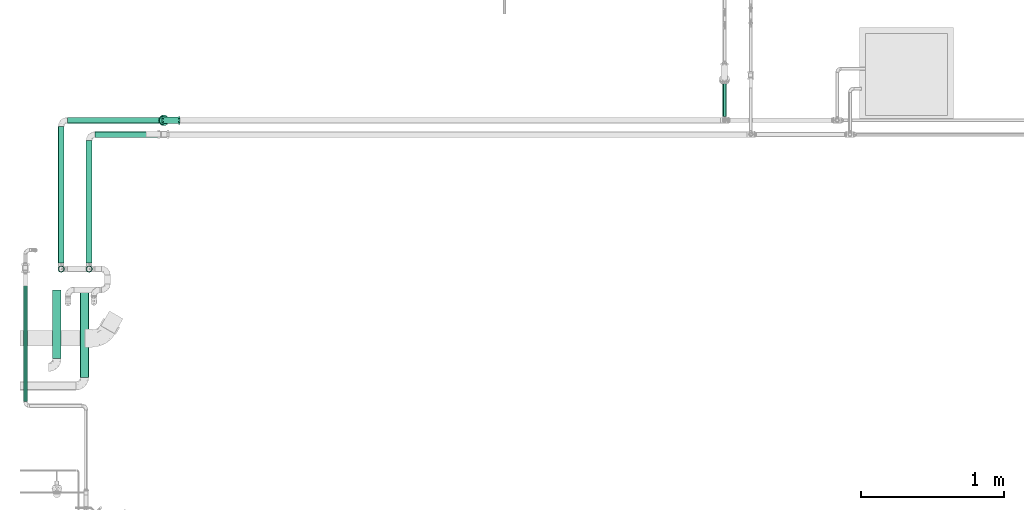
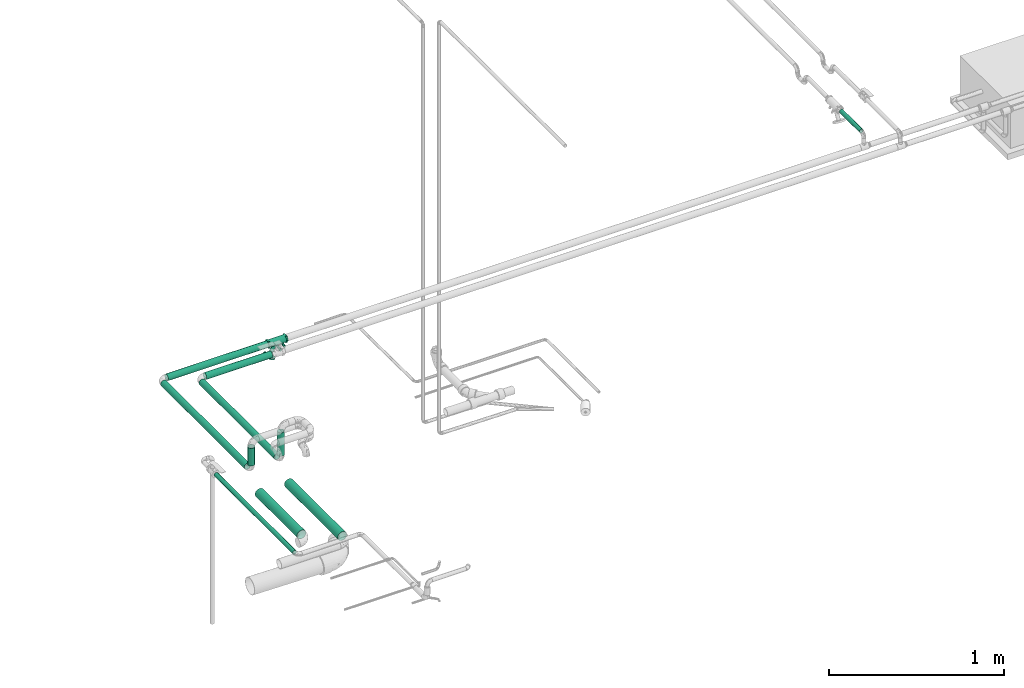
# One storey, part 8 of 35: 10 flow segments, 1 flow controller.
"""IFC2X3 building model written with IfcOpenShell, lengths in millimetres."""

from ifc_helpers import new_model, entity, si_unit, converted_unit, derived_unit, direction, frame, origin_with_axes, origin_2d_with_axis, place, context, subcontext, project, spatial, hollow_circle, extrude, open_shell, surface_model, source, transform, mapped, type_object, element, save


model = new_model("IFC2X3")

# Units and contexts
model_context = context("Model", 3, precision=0.01, world=frame((0.0, 4.29681676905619e-09, 0.0)), true_north=direction((4.01073788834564e-13, 1.0)))
plan_context = context("Plan", 3, precision=0.01, world=frame((0.0, 4.29681676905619e-09, 0.0)), true_north=direction((4.01073788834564e-13, 1.0)))
body_context = subcontext(model_context, "Body", "Model", "MODEL_VIEW")
ifc_project = project(units=[converted_unit("PLANEANGLEUNIT", "DEGREE", entity("IfcPositiveLengthMeasure", 0.0174532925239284), si_unit("PLANEANGLEUNIT", "RADIAN"), dimensions=[0, 0, 0, 0, 0, 0, 0]), si_unit("AREAUNIT", "SQUARE_METRE"), si_unit("LENGTHUNIT", "METRE", prefix="MILLI"), si_unit("MASSUNIT", "GRAM", prefix="KILO"), si_unit("POWERUNIT", "WATT"), si_unit("PRESSUREUNIT", "PASCAL"), si_unit("FORCEUNIT", "NEWTON", prefix="KILO"), si_unit("ELECTRICVOLTAGEUNIT", "VOLT"), si_unit("ELECTRICCURRENTUNIT", "AMPERE"), si_unit("THERMODYNAMICTEMPERATUREUNIT", "DEGREE_CELSIUS"), si_unit("TIMEUNIT", "SECOND"), si_unit("VOLUMEUNIT", "CUBIC_METRE"), derived_unit("LINEARVELOCITYUNIT", [(si_unit("LENGTHUNIT", "METRE"), 1), (si_unit("TIMEUNIT", "SECOND"), -1)]), derived_unit("VOLUMETRICFLOWRATEUNIT", [(si_unit("VOLUMEUNIT", "CUBIC_METRE"), 1), (si_unit("TIMEUNIT", "SECOND"), -1)]), derived_unit("THERMALTRANSMITTANCEUNIT", [(si_unit("POWERUNIT", "WATT"), 1), (si_unit("THERMODYNAMICTEMPERATUREUNIT", "KELVIN"), -1), (si_unit("AREAUNIT", "SQUARE_METRE"), -1)]), derived_unit("SOUNDPRESSUREUNIT", [(si_unit("PRESSUREUNIT", "PASCAL"), 1)])], contexts=[model_context, plan_context])

# Site, building, storey
site_placement = place(None, frame((0.0, -4.29681676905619e-09, 0.0), z_axis=(0.0, 0.0, 1.0), x_axis=(1.0, 0.0, 0.0)))
site = spatial("IfcSite", under=ifc_project, at=site_placement, Name="ENGM", CompositionType="ELEMENT")
building_placement = place(site_placement, frame((0.0, 4.29681676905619e-09, 0.0), z_axis=(0.0, 0.0, 1.0), x_axis=(1.0, 0.0, 0.0)))
building = spatial("IfcBuilding", under=site, at=building_placement, Name="TH", CompositionType="ELEMENT")
storey_placement = place(building_placement, frame((0.0, 0.0, 210200.0), z_axis=(0.0, 0.0, 1.0), x_axis=(1.0, 0.0, 0.0)))
storey = spatial("IfcBuildingStorey", under=building, at=storey_placement, Name="Nivå F - 0,7 m", CompositionType="ELEMENT", Elevation=210200.0)

# Flow controller
valve_type = type_object("IfcValveType", Name="STAD/F-32", PredefinedType="NOTDEFINED")
shared_shape_1 = source(origin_with_axes(), body_context, "Body", "SurfaceModel", [
    surface_model("IfcShellBasedSurfaceModel", [(62.0, 13.86, -24.00622), (62.0, 27.72, 0.0), (62.0, -13.86, -24.00622), (62.0, 13.86, 24.00622), (62.0, -13.86, 24.00622), (62.0, -27.72, 0.0), (52.0, -27.72, 0.0), (52.0, -13.86, 24.00622), (52.0, -13.86, -24.00622), (52.0, 27.72, 0.0), (52.0, 13.86, -24.00622), (52.0, 13.86, 24.00622), (-62.0, -13.86, -24.00622), (-62.0, -27.72, 0.0), (-62.0, 13.86, -24.00622), (-62.0, -13.86, 24.00622), (-62.0, 13.86, 24.00622), (-62.0, 27.72, 0.0), (-52.0, 27.72, 0.0), (-52.0, 13.86, 24.00622), (-52.0, 13.86, -24.00622), (-52.0, -27.72, 0.0), (-52.0, -13.86, -24.00622), (-52.0, -13.86, 24.00622), (61.40539, 36.22222, -86.94584), (69.23797, 32.47595, -82.42369), (75.96396, 26.5165, -78.54045), (36.76202, 32.47595, -101.17369), (84.36936, 9.70571, -73.68759), (81.125, 18.75, -75.56072), (21.63063, -9.70571, -109.90981), (21.63063, 9.70571, -109.90981), (44.5946, 36.22222, -96.65155), (52.99999, 37.5, -91.79869), (30.03603, 26.5165, -105.05695), (24.87499, 18.75, -108.03667), (85.47595, 0.0, -73.0487), (52.99999, -37.5, -91.79869), (84.36936, -9.70571, -73.68759), (81.125, -18.75, -75.56072), (69.23797, -32.47595, -82.42369), (75.96396, -26.5165, -78.54045), (61.40539, -36.22222, -86.94584), (24.87499, -18.75, -108.03667), (20.52404, 0.0, -110.54869), (36.76202, -32.47595, -101.17369), (30.03603, -26.5165, -105.05695), (44.5946, -36.22222, -96.65155), (78.36936, -9.70571, -63.29528), (47.0, -37.5, -81.40639), (55.40539, -36.22222, -76.55353), (63.23797, -32.47595, -72.03139), (75.125, -18.75, -65.16841), (69.96396, -26.5165, -68.14814), (15.63063, -9.70571, -99.5175), (38.5946, -36.22222, -86.25925), (24.03603, -26.5165, -94.66464), (30.76202, -32.47595, -90.78139), (18.87499, -18.75, -97.64437), (15.63063, 9.70571, -99.5175), (14.52404, 0.0, -100.15639), (69.96396, 26.5165, -68.14814), (78.36936, 9.70571, -63.29528), (75.125, 18.75, -65.16841), (63.23797, 32.47595, -72.03139), (55.40539, 36.22222, -76.55353), (30.76202, 32.47595, -90.78139), (18.87499, 18.75, -97.64437), (24.03603, 26.5165, -94.66464), (47.0, 37.5, -81.40639), (38.5946, 36.22222, -86.25925), (79.47595, 0.0, -62.65639), (52.0, 11.55, -20.00519), (52.0, -5.97872, -22.31289), (52.0, 5.97872, -22.31289), (52.0, 20.00519, -11.55), (52.0, 16.33417, -16.33417), (52.0, -22.31289, -5.97872), (52.0, 22.31289, -5.97872), (52.0, -16.33417, 16.33417), (52.0, -11.55, -20.00519), (52.0, 0.0, -23.1), (52.0, -16.33417, -16.33417), (52.0, -20.00519, -11.55), (52.0, 23.1, 0.0), (52.0, 22.31289, 5.97872), (52.0, 20.00519, 11.55), (52.0, 16.33417, 16.33417), (52.0, 11.55, 20.00519), (52.0, 5.97872, 22.31289), (52.0, 0.0, 23.1), (52.0, -22.31289, 5.97872), (52.0, -20.00519, 11.55), (52.0, -23.1, 0.0), (52.0, -5.97872, 22.31289), (52.0, -11.55, 20.00519), (-52.0, 0.0, 23.1), (-52.0, 5.97872, 22.31289), (-52.0, 11.55, 20.00519), (-52.0, -16.33417, 16.33417), (-52.0, 16.33417, 16.33417), (-52.0, 20.00519, 11.55), (-52.0, 22.31289, 5.97872), (-52.0, -5.97872, 22.31289), (-52.0, -11.55, 20.00519), (-52.0, -22.31289, 5.97872), (-52.0, -20.00519, 11.55), (-52.0, -23.1, 0.0), (-52.0, -22.31289, -5.97872), (-52.0, 22.31289, -5.97872), (-52.0, 16.33417, -16.33417), (-52.0, 20.00519, -11.55), (-52.0, -5.97872, -22.31289), (-52.0, 11.55, -20.00519), (-52.0, 0.0, -23.1), (-52.0, 5.97872, -22.31289), (-52.0, -16.33417, -16.33417), (-52.0, -20.00519, -11.55), (-52.0, -11.55, -20.00519), (-52.0, 23.1, 0.0), (-26.24732, 7.24444, -75.15582), (-24.68081, 6.49519, -76.06025), (-23.33561, 5.3033, -76.8369), (-31.176, 6.49519, -72.31025), (-22.3034, 3.75, -77.43284), (-21.65453, 1.94114, -77.80747), (-21.43321, 0.0, -77.93525), (-21.65453, -1.94114, -77.80747), (-33.5534, 3.75, -70.93765), (-27.9284, 7.5, -74.18525), (-29.60948, 7.24444, -73.21468), (-32.5212, 5.3033, -71.5336), (-34.42359, 0.0, -70.43524), (-34.20228, 1.94114, -70.56303), (-22.3034, -3.75, -77.43284), (-23.33561, -5.3033, -76.8369), (-24.68081, -6.49519, -76.06025), (-26.24732, -7.24444, -75.15582), (-27.9284, -7.5, -74.18525), (-29.60948, -7.24444, -73.21468), (-34.20228, -1.94114, -70.56303), (-31.176, -6.49519, -72.31025), (-33.5534, -3.75, -70.93765), (-32.5212, -5.3033, -71.5336), (19.69659, -3.75, -4.68671), (14.07159, -7.5, -1.43911), (15.75267, -7.24444, -2.40968), (18.66439, -5.3033, -4.09076), (17.31919, -6.49519, -3.31411), (9.4788, -5.3033, 1.21254), (8.44659, -3.75, 1.80848), (20.34547, -1.94114, -5.06133), (12.39051, -7.24444, -0.46854), (10.824, -6.49519, 0.43589), (7.79772, -1.94114, 2.18311), (7.79772, 1.94114, 2.18311), (7.5764, 0.0, 2.31089), (10.824, 6.49519, 0.43589), (18.66439, 5.3033, -4.09076), (20.56678, 0.0, -5.18911), (20.34547, 1.94114, -5.06133), (19.69659, 3.75, -4.68671), (17.31919, 6.49519, -3.31411), (15.75267, 7.24444, -2.40968), (9.4788, 5.3033, 1.21254), (8.44659, 3.75, 1.80848), (14.07159, 7.5, -1.43911), (12.39051, 7.24444, -0.46854), (-48.50132, 1.94114, -62.30747), (-53.09411, 7.24444, -59.65582), (-51.5276, 6.49519, -60.56025), (-50.1824, 5.3033, -61.33689), (-61.04906, 1.94114, -55.06303), (-49.15019, 3.75, -61.93284), (-59.36798, -5.3033, -56.0336), (-56.45627, 7.24444, -57.71467), (-54.77519, 7.5, -58.68524), (-58.02278, 6.49519, -56.81025), (-59.36798, 5.3033, -56.0336), (-60.40019, 3.75, -55.43765), (-48.28, 0.0, -62.43525), (-48.50132, -1.94114, -62.30747), (-49.15019, -3.75, -61.93284), (-50.1824, -5.3033, -61.33689), (-53.09411, -7.24444, -59.65582), (-51.5276, -6.49519, -60.56025), (-54.77519, -7.5, -58.68524), (-61.04906, -1.94114, -55.06303), (-60.40019, -3.75, -55.43765), (-61.27038, 0.0, -54.93525), (-56.45627, -7.24444, -57.71467), (-58.02278, -6.49519, -56.81025), (-28.59411, -7.24444, -17.22057), (-34.86799, -5.3033, -13.59835), (-30.27519, -7.5, -16.25), (-25.6824, -5.3033, -18.90165), (-27.0276, -6.49519, -18.125), (-24.65019, -3.75, -19.49759), (-24.00132, -1.94114, -19.87222), (-36.54907, 1.94114, -12.62778), (-31.95627, -7.24444, -15.27943), (-33.52279, -6.49519, -14.375), (-35.90019, -3.75, -13.00241), (-36.54907, -1.94114, -12.62778), (-36.77038, 0.0, -12.5), (-24.00132, 1.94114, -19.87222), (-25.6824, 5.3033, -18.90165), (-24.65019, 3.75, -19.49759), (-27.0276, 6.49519, -18.125), (-28.59411, 7.24444, -17.22057), (-34.86799, 5.3033, -13.59835), (-35.90019, 3.75, -13.00241), (-33.52279, 6.49519, -14.375), (-30.27519, 7.5, -16.25), (-31.95627, 7.24444, -15.27943), (-23.78, 0.0, -20.0), (52.41265, 10.82532, -78.28139), (54.65465, 8.83883, -76.98697), (52.32605, 10.65211, -78.33139), (49.75696, 11.88089, -79.81465), (47.0, 12.3, -81.40639), (49.80179, 12.07407, -79.78877), (47.0, 12.5, -81.40639), (54.53218, 8.69741, -77.05769), (57.45645, 3.23524, -75.36935), (57.65211, 0.0, -75.25639), (57.28914, 3.18347, -75.46595), (57.82531, 0.0, -75.15639), (56.375, 6.25, -75.99373), (56.225, 6.15, -76.08034), (44.24303, 11.88089, -82.99813), (44.1982, 12.07407, -83.02401), (41.67394, 10.65211, -84.48139), (39.34534, 8.83883, -85.82581), (41.58734, 10.82532, -84.53139), (39.46781, 8.69741, -85.75509), (37.77499, 6.15, -86.73244), (37.62499, 6.25, -86.81905), (36.71085, 3.18347, -87.34683), (36.54354, 3.23524, -87.44343), (36.34788, 0.0, -87.55639), (36.17468, 0.0, -87.65639), (57.45645, -3.23524, -75.36935), (57.28914, -3.18347, -75.46595), (56.225, -6.15, -76.08034), (56.375, -6.25, -75.99373), (54.53218, -8.69741, -77.05769), (54.65465, -8.83883, -76.98697), (52.41265, -10.82532, -78.28139), (52.32605, -10.65211, -78.33139), (49.75696, -11.88089, -79.81465), (49.80179, -12.07407, -79.78877), (47.0, -12.3, -81.40639), (47.0, -12.5, -81.40639), (37.62499, -6.25, -86.81905), (37.77499, -6.15, -86.73244), (39.34534, -8.83883, -85.82581), (39.46781, -8.69741, -85.75509), (36.54354, -3.23524, -87.44343), (36.71085, -3.18347, -87.34683), (44.24303, -11.88089, -82.99813), (44.1982, -12.07407, -83.02401), (41.67394, -10.65211, -84.48139), (41.58734, -10.82532, -84.53139), (5.41266, -10.82532, 3.125), (7.65466, -8.83883, 4.41942), (5.32606, -10.65211, 3.075), (2.75697, -11.88089, 1.59174), (0.0, -12.3, 0.0), (2.8018, -12.07407, 1.61762), (0.0, -12.5, 0.0), (7.53218, -8.69741, 4.34871), (10.45645, -3.23524, 6.03704), (10.65211, 0.0, 6.15), (10.28915, -3.18347, 5.94044), (10.82532, 0.0, 6.25), (9.375, -6.25, 5.41266), (9.225, -6.15, 5.32606), (-2.75697, -11.88089, -1.59174), (-2.8018, -12.07407, -1.61762), (-5.32606, -10.65211, -3.075), (-7.65466, -8.83883, -4.41942), (-5.41266, -10.82532, -3.125), (-7.53218, -8.69741, -4.34871), (-9.225, -6.15, -5.32606), (-9.375, -6.25, -5.41266), (-10.28915, -3.18347, -5.94044), (-10.45645, -3.23524, -6.03704), (-10.65211, 0.0, -6.15), (-10.82532, 0.0, -6.25), (10.45645, 3.23524, 6.03704), (10.28915, 3.18347, 5.94044), (9.225, 6.15, 5.32606), (9.375, 6.25, 5.41266), (7.53218, 8.69741, 4.34871), (7.65466, 8.83883, 4.41942), (5.41266, 10.82532, 3.125), (5.32606, 10.65211, 3.075), (2.75697, 11.88089, 1.59174), (2.8018, 12.07407, 1.61762), (0.0, 12.3, 0.0), (0.0, 12.5, 0.0), (-9.375, 6.25, -5.41266), (-9.225, 6.15, -5.32606), (-7.65466, 8.83883, -4.41942), (-7.53218, 8.69741, -4.34871), (-10.45645, 3.23524, -6.03704), (-10.28915, 3.18347, -5.94044), (-2.75697, 11.88089, -1.59174), (-2.8018, 12.07407, -1.61762), (-5.32606, 10.65211, -3.075), (-5.41266, 10.82532, -3.125)], [open_shell([[[0, 1, 2]], [[2, 1, 3]], [[2, 4, 5]], [[4, 2, 3]], [[6, 7, 8]], [[8, 7, 9]], [[9, 10, 8]], [[9, 7, 11]], [[4, 3, 7]], [[11, 7, 3]], [[5, 4, 7]], [[7, 6, 5]], [[2, 5, 6]], [[6, 8, 2]], [[0, 2, 10]], [[8, 10, 2]], [[1, 0, 9]], [[10, 9, 0]], [[3, 1, 11]], [[9, 11, 1]], [[12, 13, 14]], [[14, 13, 15]], [[14, 16, 17]], [[16, 14, 15]], [[18, 19, 20]], [[20, 19, 21]], [[21, 22, 20]], [[21, 19, 23]], [[16, 15, 19]], [[23, 19, 15]], [[17, 16, 19]], [[19, 18, 17]], [[14, 17, 18]], [[18, 20, 14]], [[12, 14, 22]], [[20, 22, 14]], [[13, 12, 21]], [[22, 21, 12]], [[15, 13, 23]], [[21, 23, 13]], [[24, 25, 26]], [[27, 24, 26]], [[27, 26, 28]], [[28, 26, 29]], [[30, 31, 28]], [[24, 32, 33]], [[24, 27, 32]], [[34, 31, 35]], [[31, 34, 27]], [[28, 31, 27]], [[28, 36, 30]], [[37, 38, 39]], [[40, 39, 41]], [[40, 42, 37]], [[40, 37, 39]], [[38, 37, 43]], [[38, 43, 30]], [[44, 31, 30]], [[43, 45, 46]], [[43, 37, 45]], [[45, 37, 47]], [[30, 36, 38]], [[48, 49, 50]], [[48, 50, 51]], [[52, 48, 51]], [[52, 51, 53]], [[49, 48, 54]], [[55, 56, 57]], [[56, 55, 54]], [[56, 54, 58]], [[55, 49, 54]], [[54, 59, 60]], [[54, 48, 61]], [[48, 62, 61]], [[61, 62, 63]], [[61, 64, 65]], [[61, 66, 54]], [[65, 66, 61]], [[67, 66, 68]], [[59, 54, 67]], [[66, 69, 70]], [[67, 54, 66]], [[69, 66, 65]], [[71, 62, 48]], [[59, 31, 60]], [[67, 35, 59]], [[27, 68, 66]], [[67, 68, 34]], [[32, 66, 70]], [[59, 35, 31]], [[31, 44, 60]], [[32, 27, 66]], [[34, 68, 27]], [[34, 35, 67]], [[33, 32, 70]], [[70, 69, 33]], [[65, 24, 69]], [[64, 25, 65]], [[29, 61, 63]], [[64, 61, 26]], [[28, 63, 62]], [[64, 26, 25]], [[25, 24, 65]], [[36, 28, 62]], [[29, 63, 28]], [[29, 26, 61]], [[71, 36, 62]], [[69, 24, 33]], [[48, 38, 71]], [[52, 39, 48]], [[40, 53, 51]], [[52, 53, 41]], [[42, 51, 50]], [[48, 39, 38]], [[38, 36, 71]], [[42, 40, 51]], [[41, 53, 40]], [[41, 39, 52]], [[37, 42, 50]], [[50, 49, 37]], [[55, 47, 49]], [[57, 45, 55]], [[43, 56, 58]], [[57, 56, 46]], [[30, 58, 54]], [[57, 46, 45]], [[45, 47, 55]], [[44, 30, 54]], [[43, 58, 30]], [[43, 46, 56]], [[60, 44, 54]], [[49, 47, 37]], [[72, 73, 74]], [[75, 72, 76]], [[77, 72, 78]], [[78, 72, 75]], [[79, 77, 78]], [[73, 77, 80]], [[73, 81, 74]], [[82, 77, 83]], [[77, 82, 80]], [[72, 77, 73]], [[78, 84, 79]], [[85, 86, 87]], [[85, 87, 88]], [[88, 89, 90]], [[85, 88, 79]], [[79, 88, 90]], [[91, 79, 92]], [[91, 93, 77]], [[79, 94, 95]], [[77, 79, 91]], [[90, 94, 79]], [[79, 84, 85]], [[96, 97, 98]], [[99, 96, 98]], [[100, 101, 102]], [[100, 102, 98]], [[99, 98, 102]], [[103, 99, 104]], [[103, 96, 99]], [[99, 105, 106]], [[107, 105, 108]], [[105, 99, 108]], [[99, 102, 108]], [[108, 102, 109]], [[110, 109, 111]], [[112, 109, 113]], [[113, 109, 110]], [[114, 113, 115]], [[108, 116, 117]], [[116, 108, 118]], [[108, 112, 118]], [[108, 109, 112]], [[113, 114, 112]], [[109, 102, 119]], [[77, 108, 117]], [[116, 83, 117]], [[80, 118, 112]], [[116, 118, 82]], [[73, 112, 114]], [[108, 93, 107]], [[108, 77, 93]], [[117, 83, 77]], [[116, 82, 83]], [[80, 82, 118]], [[112, 73, 80]], [[114, 81, 73]], [[74, 115, 113]], [[110, 72, 113]], [[75, 111, 109]], [[110, 111, 76]], [[78, 109, 119]], [[115, 74, 81]], [[113, 72, 74]], [[110, 76, 72]], [[111, 75, 76]], [[78, 75, 109]], [[119, 84, 78]], [[115, 81, 114]], [[119, 102, 85]], [[88, 98, 97]], [[98, 87, 100]], [[96, 89, 97]], [[119, 85, 84]], [[85, 102, 101]], [[85, 101, 86]], [[101, 100, 86]], [[86, 100, 87]], [[87, 98, 88]], [[97, 89, 88]], [[96, 90, 89]], [[94, 103, 104]], [[99, 95, 104]], [[92, 106, 105]], [[99, 106, 79]], [[91, 105, 107]], [[103, 94, 90]], [[104, 95, 94]], [[99, 79, 95]], [[106, 92, 79]], [[91, 92, 105]], [[107, 93, 91]], [[103, 90, 96]], [[120, 121, 122]], [[123, 120, 122]], [[124, 125, 126]], [[124, 126, 122]], [[127, 128, 122]], [[129, 123, 130]], [[129, 120, 123]], [[123, 128, 131]], [[122, 128, 123]], [[128, 132, 133]], [[127, 122, 126]], [[127, 134, 135]], [[127, 135, 136]], [[136, 137, 138]], [[136, 138, 127]], [[127, 138, 139]], [[140, 141, 142]], [[132, 128, 140]], [[142, 141, 143]], [[141, 140, 139]], [[127, 139, 140]], [[140, 128, 127]], [[144, 145, 146]], [[147, 146, 148]], [[145, 144, 149]], [[144, 146, 147]], [[150, 144, 151]], [[152, 149, 153]], [[152, 145, 149]], [[144, 150, 149]], [[154, 150, 151]], [[154, 155, 156]], [[154, 151, 157]], [[158, 159, 160]], [[158, 160, 161]], [[158, 162, 163]], [[163, 151, 158]], [[163, 157, 151]], [[155, 164, 165]], [[164, 155, 157]], [[157, 166, 167]], [[155, 154, 157]], [[163, 166, 157]], [[158, 151, 159]], [[155, 133, 156]], [[165, 128, 155]], [[123, 164, 157]], [[165, 164, 131]], [[130, 157, 167]], [[155, 128, 133]], [[133, 132, 156]], [[130, 123, 157]], [[131, 164, 123]], [[131, 128, 165]], [[129, 130, 167]], [[167, 166, 129]], [[163, 120, 166]], [[162, 121, 163]], [[124, 158, 161]], [[162, 158, 122]], [[125, 161, 160]], [[162, 122, 121]], [[121, 120, 163]], [[126, 125, 160]], [[124, 161, 125]], [[124, 122, 158]], [[159, 126, 160]], [[166, 120, 129]], [[151, 127, 159]], [[144, 134, 151]], [[136, 147, 148]], [[144, 147, 135]], [[137, 148, 146]], [[159, 127, 126]], [[151, 134, 127]], [[138, 137, 146]], [[134, 144, 135]], [[137, 136, 148]], [[147, 136, 135]], [[146, 145, 138]], [[152, 139, 145]], [[153, 141, 152]], [[153, 149, 141]], [[149, 150, 143]], [[139, 152, 141]], [[141, 149, 143]], [[154, 140, 142]], [[140, 154, 132]], [[154, 156, 132]], [[142, 143, 150]], [[142, 150, 154]], [[145, 139, 138]], [[168, 169, 170]], [[168, 170, 171]], [[169, 168, 172]], [[168, 171, 173]], [[174, 172, 168]], [[169, 175, 176]], [[169, 177, 175]], [[178, 172, 179]], [[172, 178, 177]], [[169, 172, 177]], [[168, 180, 181]], [[181, 182, 183]], [[168, 183, 174]], [[183, 184, 174]], [[184, 183, 185]], [[186, 174, 184]], [[187, 174, 188]], [[189, 172, 187]], [[174, 190, 191]], [[172, 174, 187]], [[186, 190, 174]], [[181, 183, 168]], [[192, 193, 194]], [[195, 192, 196]], [[195, 197, 198]], [[193, 192, 199]], [[199, 192, 195]], [[200, 193, 201]], [[200, 194, 193]], [[193, 199, 202]], [[199, 203, 202]], [[203, 199, 204]], [[198, 205, 195]], [[199, 195, 205]], [[206, 205, 207]], [[208, 209, 205]], [[208, 205, 206]], [[199, 205, 209]], [[199, 210, 211]], [[210, 199, 212]], [[212, 213, 214]], [[212, 199, 209]], [[209, 213, 212]], [[205, 198, 215]], [[199, 172, 204]], [[211, 179, 199]], [[177, 210, 212]], [[211, 210, 178]], [[175, 212, 214]], [[199, 179, 172]], [[172, 189, 204]], [[175, 177, 212]], [[178, 210, 177]], [[178, 179, 211]], [[176, 175, 214]], [[214, 213, 176]], [[209, 169, 213]], [[208, 170, 209]], [[173, 206, 207]], [[208, 206, 171]], [[168, 207, 205]], [[208, 171, 170]], [[170, 169, 209]], [[180, 168, 205]], [[173, 207, 168]], [[173, 171, 206]], [[215, 180, 205]], [[213, 169, 176]], [[198, 181, 215]], [[197, 182, 198]], [[185, 195, 196]], [[197, 195, 183]], [[184, 196, 192]], [[198, 182, 181]], [[181, 180, 215]], [[184, 185, 196]], [[183, 195, 185]], [[183, 182, 197]], [[186, 184, 192]], [[192, 194, 186]], [[200, 190, 194]], [[201, 191, 200]], [[188, 193, 202]], [[201, 193, 174]], [[187, 202, 203]], [[201, 174, 191]], [[191, 190, 200]], [[189, 187, 203]], [[188, 202, 187]], [[188, 174, 193]], [[204, 189, 203]], [[194, 190, 186]], [[216, 217, 218]], [[216, 218, 219]], [[220, 221, 219]], [[221, 220, 222]], [[219, 221, 216]], [[218, 217, 223]], [[224, 225, 226]], [[225, 224, 227]], [[224, 226, 228]], [[223, 228, 229]], [[228, 223, 217]], [[229, 228, 226]], [[222, 230, 231]], [[231, 230, 232]], [[233, 234, 235]], [[232, 234, 231]], [[232, 235, 234]], [[222, 220, 230]], [[236, 237, 233]], [[237, 236, 238]], [[236, 233, 235]], [[239, 238, 240]], [[238, 239, 237]], [[239, 240, 241]], [[227, 242, 243]], [[243, 242, 244]], [[244, 245, 246]], [[245, 244, 242]], [[246, 245, 247]], [[247, 248, 249]], [[249, 248, 250]], [[250, 251, 252]], [[251, 250, 248]], [[252, 251, 253]], [[249, 246, 247]], [[254, 255, 256]], [[256, 255, 257]], [[255, 254, 258]], [[241, 259, 258]], [[258, 259, 255]], [[241, 240, 259]], [[260, 253, 261]], [[260, 261, 262]], [[257, 263, 256]], [[257, 262, 263]], [[263, 262, 261]], [[252, 253, 260]], [[243, 225, 227]], [[264, 265, 266]], [[264, 266, 267]], [[268, 269, 267]], [[269, 268, 270]], [[267, 269, 264]], [[266, 265, 271]], [[272, 273, 274]], [[273, 272, 275]], [[272, 274, 276]], [[271, 276, 277]], [[276, 271, 265]], [[277, 276, 274]], [[270, 278, 279]], [[279, 278, 280]], [[281, 282, 283]], [[280, 282, 279]], [[280, 283, 282]], [[270, 268, 278]], [[284, 285, 281]], [[285, 284, 286]], [[284, 281, 283]], [[287, 286, 288]], [[286, 287, 285]], [[287, 288, 289]], [[275, 290, 291]], [[291, 290, 292]], [[292, 293, 294]], [[293, 292, 290]], [[294, 293, 295]], [[295, 296, 297]], [[297, 296, 298]], [[298, 299, 300]], [[299, 298, 296]], [[300, 299, 301]], [[297, 294, 295]], [[302, 303, 304]], [[304, 303, 305]], [[303, 302, 306]], [[289, 307, 306]], [[306, 307, 303]], [[289, 288, 307]], [[308, 301, 309]], [[308, 309, 310]], [[305, 311, 304]], [[305, 310, 311]], [[311, 310, 309]], [[300, 301, 308]], [[291, 273, 275]], [[306, 239, 289]], [[302, 237, 306]], [[234, 304, 311]], [[302, 304, 233]], [[231, 311, 309]], [[306, 237, 239]], [[239, 241, 289]], [[231, 234, 311]], [[233, 304, 234]], [[233, 237, 302]], [[222, 231, 309]], [[309, 301, 222]], [[299, 221, 301]], [[296, 216, 299]], [[228, 295, 293]], [[296, 295, 217]], [[224, 293, 290]], [[296, 217, 216]], [[216, 221, 299]], [[227, 224, 290]], [[228, 293, 224]], [[228, 217, 295]], [[275, 227, 290]], [[301, 221, 222]], [[272, 242, 275]], [[276, 245, 272]], [[248, 265, 264]], [[276, 265, 247]], [[251, 264, 269]], [[275, 242, 227]], [[272, 245, 242]], [[248, 264, 251]], [[276, 247, 245]], [[265, 248, 247]], [[269, 253, 251]], [[269, 270, 253]], [[279, 261, 270]], [[282, 263, 279]], [[282, 281, 256]], [[281, 285, 256]], [[261, 279, 263]], [[263, 282, 256]], [[258, 287, 241]], [[287, 258, 254]], [[287, 289, 241]], [[254, 256, 285]], [[254, 285, 287]], [[270, 261, 253]], [[288, 238, 307]], [[307, 236, 303]], [[235, 305, 303]], [[232, 310, 305]], [[238, 236, 307]], [[288, 240, 238]], [[232, 230, 308]], [[308, 230, 220]], [[232, 305, 235]], [[303, 236, 235]], [[232, 308, 310]], [[220, 300, 308]], [[297, 298, 219]], [[297, 218, 294]], [[291, 292, 229]], [[223, 292, 294]], [[273, 291, 226]], [[298, 220, 219]], [[218, 297, 219]], [[229, 292, 223]], [[291, 229, 226]], [[223, 294, 218]], [[226, 225, 273]], [[300, 220, 298]], [[273, 243, 274]], [[274, 244, 277]], [[266, 271, 249]], [[246, 271, 277]], [[267, 266, 249]], [[243, 244, 274]], [[273, 225, 243]], [[252, 268, 250]], [[267, 249, 250]], [[249, 271, 246]], [[277, 244, 246]], [[267, 250, 268]], [[280, 278, 260]], [[280, 262, 283]], [[286, 284, 255]], [[257, 284, 283]], [[288, 286, 259]], [[260, 268, 252]], [[280, 260, 262]], [[255, 284, 257]], [[286, 255, 259]], [[257, 283, 262]], [[240, 288, 259]], [[278, 268, 260]]])]),
])
flow_controller_placement = place(storey_placement, frame((896167.1772, 481295.36097, 2978.79999999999), z_axis=(0.0, 0.0, 1.0), x_axis=(-1.0, 0.0, 0.0)))
element("IfcFlowController", 1, at=flow_controller_placement, inside=storey, type_object=valve_type, Name="STAD/F-32", context=body_context, shape_type="MappedRepresentation", body=[
    mapped(shared_shape_1, transform((0.0, 0.0, 0.0), scale=1.0)),
])

# Flow segments
pipe_segment_type_1 = type_object("IfcPipeSegmentType", Name="Stålrør normaltykke", PredefinedType="RIGIDSEGMENT")
shared_shape_2 = source(origin_with_axes(), body_context, "Body", "SweptSolid", [
    extrude(hollow_circle(Radius=21.2, WallThickness=2.0, at=origin_2d_with_axis()), frame((0.0, 0.0, 0.0), z_axis=(1.0, 0.0, 0.0), x_axis=(0.0, 1.0, 0.0)), (0.0, 0.0, 1.0), 856.2),
])
flow_segment_1_placement = place(storey_placement, frame((895595.39181, 481153.97011, 2978.79999999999), z_axis=(0.0, 0.0, 1.0), x_axis=(0.0, -1.0, 0.0)))
element("IfcFlowSegment", 2, at=flow_segment_1_placement, inside=storey, type_object=pipe_segment_type_1, Name="Stålrør normaltykke", context=body_context, shape_type="MappedRepresentation", body=[
    mapped(shared_shape_2, transform((0.0, 0.0, 0.0), scale=1.0)),
])
shared_shape_3 = source(origin_with_axes(), body_context, "Body", "SweptSolid", [
    extrude(hollow_circle(Radius=21.2, WallThickness=2.0, at=origin_2d_with_axis()), frame((0.0, 0.0, 0.0), z_axis=(1.0, 0.0, 0.0), x_axis=(0.0, 1.0, 0.0)), (0.0, 0.0, 1.0), 955.2),
])
flow_segment_2_placement = place(storey_placement, frame((895399.93442, 481252.96097, 2978.79999999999), z_axis=(0.0, 0.0, 1.0), x_axis=(0.0, -1.0, 0.0)))
element("IfcFlowSegment", 3, at=flow_segment_2_placement, inside=storey, type_object=pipe_segment_type_1, Name="Stålrør normaltykke", context=body_context, shape_type="MappedRepresentation", body=[
    mapped(shared_shape_3, transform((0.0, 0.0, 0.0), scale=1.0)),
])
shared_shape_4 = source(origin_with_axes(), body_context, "Body", "SweptSolid", [
    extrude(hollow_circle(Radius=21.2, WallThickness=2.0, at=origin_2d_with_axis()), frame((0.0, 0.0, 0.0), z_axis=(1.0, 0.0, 0.0), x_axis=(0.0, 1.0, 0.0)), (0.0, 0.0, 1.0), 123.4),
])
flow_segment_3_placement = place(storey_placement, frame((895399.93442, 480255.36097, 3021.20000000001), z_axis=(-1.0, 0.0, 0.0), x_axis=(0.0, 0.0, 1.0)))
element("IfcFlowSegment", 4, at=flow_segment_3_placement, inside=storey, type_object=pipe_segment_type_1, Name="Stålrør normaltykke", context=body_context, shape_type="MappedRepresentation", body=[
    mapped(shared_shape_4, transform((0.0, 0.0, 0.0), scale=1.0)),
])
shared_shape_5 = source(origin_with_axes(), body_context, "Body", "SweptSolid", [
    extrude(hollow_circle(Radius=21.2, WallThickness=2.0, at=origin_2d_with_axis()), frame((0.0, 0.0, 0.0), z_axis=(1.0, 0.0, 0.0), x_axis=(0.0, 1.0, 0.0)), (0.0, 0.0, 1.0), 162.2),
])
flow_segment_4_placement = place(storey_placement, frame((895595.39181, 480255.36097, 3021.20000000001), z_axis=(-1.0, 0.0, 0.0), x_axis=(0.0, 0.0, 1.0)))
element("IfcFlowSegment", 5, at=flow_segment_4_placement, inside=storey, type_object=pipe_segment_type_1, Name="Stålrør normaltykke", context=body_context, shape_type="MappedRepresentation", body=[
    mapped(shared_shape_5, transform((0.0, 0.0, 0.0), scale=1.0)),
])
shared_shape_6 = source(origin_with_axes(), body_context, "Body", "SweptSolid", [
    extrude(hollow_circle(Radius=30.1, WallThickness=2.0, at=origin_2d_with_axis()), frame((0.0, 0.0, 0.0), z_axis=(1.0, 0.0, 0.0), x_axis=(0.0, 1.0, 0.0)), (0.0, 0.0, 1.0), 479.2),
])
flow_segment_5_placement = place(storey_placement, frame((895369.84063, 480107.50014, 2921.0), z_axis=(0.0, 0.0, 1.0), x_axis=(0.0, -1.0, 0.0)))
element("IfcFlowSegment", 6, at=flow_segment_5_placement, inside=storey, type_object=pipe_segment_type_1, Name="Stålrør normaltykke", context=body_context, shape_type="MappedRepresentation", body=[
    mapped(shared_shape_6, transform((0.0, 0.0, 0.0), scale=1.0)),
])
shared_shape_7 = source(origin_with_axes(), body_context, "Body", "SweptSolid", [
    extrude(hollow_circle(Radius=30.1, WallThickness=2.0, at=origin_2d_with_axis()), frame((0.0, 0.0, 0.0), z_axis=(1.0, 0.0, 0.0), x_axis=(0.0, 1.0, 0.0)), (0.0, 0.0, 1.0), 609.2),
])
flow_segment_6_placement = place(storey_placement, frame((895562.81931, 480107.50014, 2921.0), z_axis=(0.0, 0.0, 1.0), x_axis=(0.0, -1.0, 0.0)))
element("IfcFlowSegment", 7, at=flow_segment_6_placement, inside=storey, type_object=pipe_segment_type_1, Name="Stålrør normaltykke", context=body_context, shape_type="MappedRepresentation", body=[
    mapped(shared_shape_7, transform((0.0, 0.0, 0.0), scale=1.0)),
])
pipe_segment_type_2 = type_object("IfcPipeSegmentType", Name="Kobberrør", PredefinedType="RIGIDSEGMENT")
shared_shape_8 = source(origin_with_axes(), body_context, "Body", "SweptSolid", [
    extrude(hollow_circle(Radius=14.0, WallThickness=2.0, at=origin_2d_with_axis()), frame((0.0, 0.0, 0.0), z_axis=(1.0, 0.0, 0.0), x_axis=(0.0, 1.0, 0.0)), (0.0, 0.0, 1.0), 895.8),
])
flow_segment_7_placement = place(storey_placement, frame((895150.16007, 479327.55605, 3055.47382000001), z_axis=(0.0, 0.0, 1.0), x_axis=(0.0, 1.0, 0.0)))
element("IfcFlowSegment", 8, at=flow_segment_7_placement, inside=storey, type_object=pipe_segment_type_2, Name="Kobberrør", context=body_context, shape_type="MappedRepresentation", body=[
    mapped(shared_shape_8, transform((0.0, 0.0, 0.0), scale=1.0)),
])
shared_shape_9 = source(origin_with_axes(), body_context, "Body", "SweptSolid", [
    extrude(hollow_circle(Radius=21.2, WallThickness=2.0, at=origin_2d_with_axis()), frame((0.0, 0.0, 0.0), z_axis=(1.0, 0.0, 0.0), x_axis=(0.0, 1.0, 0.0)), (0.0, 0.0, 1.0), 662.8),
])
flow_segment_8_placement = place(storey_placement, frame((895442.33442, 481295.36097, 2978.79999999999), z_axis=(0.0, 0.0, 1.0), x_axis=(1.0, 0.0, 0.0)))
element("IfcFlowSegment", 9, at=flow_segment_8_placement, inside=storey, type_object=pipe_segment_type_1, Name="Stålrør normaltykke", context=body_context, shape_type="MappedRepresentation", body=[
    mapped(shared_shape_9, transform((0.0, 0.0, 0.0), scale=1.0)),
])
shared_shape_10 = source(origin_with_axes(), body_context, "Body", "SweptSolid", [
    extrude(hollow_circle(Radius=21.2, WallThickness=2.0, at=origin_2d_with_axis()), frame((0.0, 0.0, 0.0), z_axis=(1.0, 0.0, 0.0), x_axis=(0.0, 1.0, 0.0)), (0.0, 0.0, 1.0), 435.5),
])
flow_segment_9_placement = place(storey_placement, frame((895637.79181, 481196.37011, 2978.79999999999), z_axis=(0.0, 0.0, 1.0), x_axis=(1.0, 0.0, 0.0)))
element("IfcFlowSegment", 10, at=flow_segment_9_placement, inside=storey, type_object=pipe_segment_type_1, Name="Stålrør normaltykke", context=body_context, shape_type="MappedRepresentation", body=[
    mapped(shared_shape_10, transform((0.0, 0.0, 0.0), scale=1.0)),
])
shared_shape_11 = source(origin_with_axes(), body_context, "Body", "SweptSolid", [
    extrude(hollow_circle(Radius=13.3, WallThickness=2.0, at=origin_2d_with_axis()), frame((0.0, 0.0, 0.0), z_axis=(1.0, 0.0, 0.0), x_axis=(0.0, 1.0, 0.0)), (0.0, 0.0, 1.0), 229.6),
])
flow_segment_10_placement = place(storey_placement, frame((900037.00487, 481322.16097, 3070.04999999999), z_axis=(0.0, 0.0, 1.0), x_axis=(0.0, 1.0, 0.0)))
element("IfcFlowSegment", 11, at=flow_segment_10_placement, inside=storey, type_object=pipe_segment_type_1, Name="Stålrør normaltykke", context=body_context, shape_type="MappedRepresentation", body=[
    mapped(shared_shape_11, transform((0.0, 0.0, 0.0), scale=1.0)),
])

save(model, "model.ifc")
